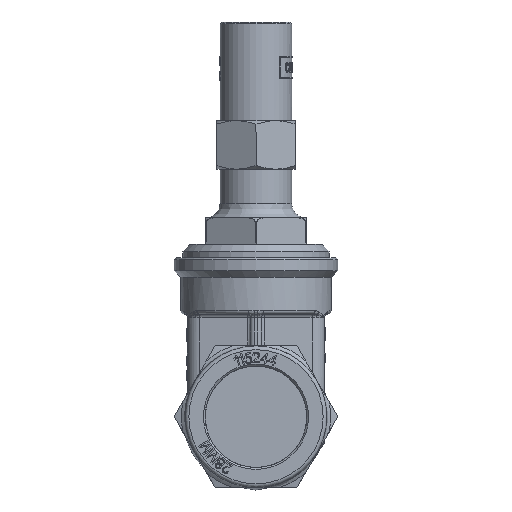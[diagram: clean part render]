
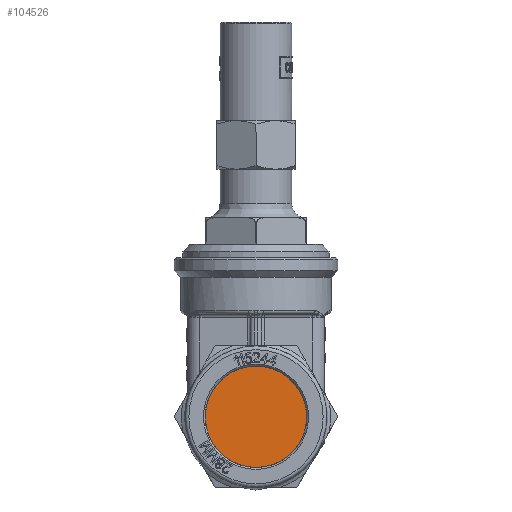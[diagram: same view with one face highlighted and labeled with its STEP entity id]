
A CAD part, left-side view. The second image highlights one B-rep face of the part: STEP entity #104526.
In plain terms, the highlighted planar face has unit normal (-1, 0, 0).
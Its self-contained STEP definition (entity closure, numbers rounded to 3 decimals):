
#104503=CARTESIAN_POINT('',(13.336,-14.113,0.0));
#104504=VERTEX_POINT('',#104503);
#104505=CARTESIAN_POINT('',(13.336,0.0,0.0));
#104506=DIRECTION('',(-1.0,0.0,0.0));
#104507=DIRECTION('',(0.0,-1.0,0.0));
#104508=AXIS2_PLACEMENT_3D('',#104505,#104506,#104507);
#104509=CIRCLE('',#104508,14.113);
#104510=EDGE_CURVE('',#104504,#104504,#104509,.T.);
#104518=CARTESIAN_POINT('',(13.336,-7.056,0.0));
#104519=DIRECTION('',(-1.0,0.0,0.0));
#104520=DIRECTION('',(0.0,0.0,1.0));
#104521=AXIS2_PLACEMENT_3D('',#104518,#104519,#104520);
#104522=PLANE('',#104521);
#104523=ORIENTED_EDGE('',*,*,#104510,.T.);
#104524=EDGE_LOOP('',(#104523));
#104525=FACE_OUTER_BOUND('',#104524,.T.);
#104526=ADVANCED_FACE('',(#104525),#104522,.T.);
